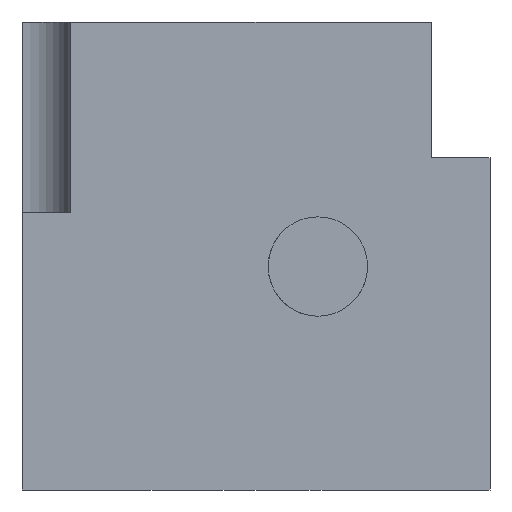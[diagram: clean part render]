
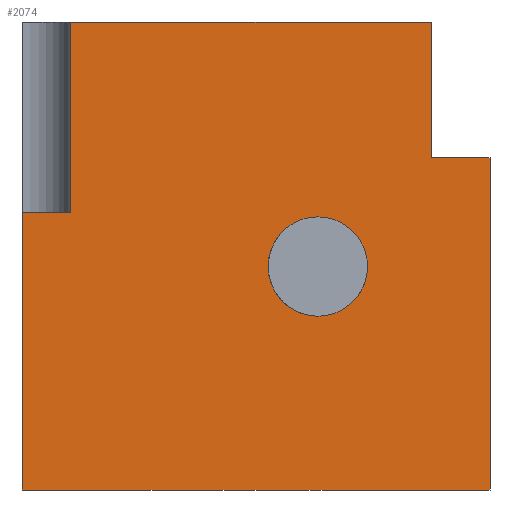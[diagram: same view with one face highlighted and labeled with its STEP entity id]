
A CAD part, front view. The second image highlights one B-rep face of the part: STEP entity #2074.
In plain terms, the highlighted planar face has unit normal (0, -1, 0).
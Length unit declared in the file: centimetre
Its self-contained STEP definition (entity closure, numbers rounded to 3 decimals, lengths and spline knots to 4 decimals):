
#6 = ORIENTED_EDGE ( 'NONE', *, *, #1111, .F. ) ;
#37 = ORIENTED_EDGE ( 'NONE', *, *, #1670, .F. ) ;
#57 = EDGE_CURVE ( 'NONE', #1384, #374, #211, .T. ) ;
#70 = EDGE_CURVE ( 'NONE', #266, #604, #356, .T. ) ;
#79 = FACE_OUTER_BOUND ( 'NONE', #1983, .T. ) ;
#91 = AXIS2_PLACEMENT_3D ( 'NONE', #1476, #615, #410 ) ;
#92 = CARTESIAN_POINT ( 'NONE',  ( 0., 0., 1000. ) ) ;
#103 = EDGE_CURVE ( 'NONE', #290, #1273, #567, .T. ) ;
#134 = CARTESIAN_POINT ( 'NONE',  ( 874.7056, 0., 709.4959 ) ) ;
#185 = CARTESIAN_POINT ( 'NONE',  ( 0., 0., 1000. ) ) ;
#205 = CIRCLE ( 'NONE', #823, 106.1755 ) ;
#211 = LINE ( 'NONE', #1591, #706 ) ;
#230 = ORIENTED_EDGE ( 'NONE', *, *, #686, .F. ) ;
#239 = LINE ( 'NONE', #2176, #1822 ) ;
#266 = VERTEX_POINT ( 'NONE', #710 ) ;
#290 = VERTEX_POINT ( 'NONE', #1290 ) ;
#319 = CARTESIAN_POINT ( 'NONE',  ( 0., 0., 0. ) ) ;
#332 = EDGE_CURVE ( 'NONE', #976, #1384, #791, .T. ) ;
#356 = LINE ( 'NONE', #1733, #1929 ) ;
#374 = VERTEX_POINT ( 'NONE', #1643 ) ;
#404 = DIRECTION ( 'NONE',  ( 1., 0., 0. ) ) ;
#410 = DIRECTION ( 'NONE',  ( 0., 0., -1. ) ) ;
#424 = ORIENTED_EDGE ( 'NONE', *, *, #57, .F. ) ;
#478 = LINE ( 'NONE', #319, #1936 ) ;
#538 = DIRECTION ( 'NONE',  ( 0., 0., 1. ) ) ;
#558 = VECTOR ( 'NONE', #1797, 100. ) ;
#564 = ORIENTED_EDGE ( 'NONE', *, *, #70, .T. ) ;
#567 = LINE ( 'NONE', #914, #558 ) ;
#574 = CARTESIAN_POINT ( 'NONE',  ( 0., 0., 593.3144 ) ) ;
#604 = VERTEX_POINT ( 'NONE', #879 ) ;
#615 = DIRECTION ( 'NONE',  ( 0., -1., 0. ) ) ;
#629 = CARTESIAN_POINT ( 'NONE',  ( 1000., 0., 709.4959 ) ) ;
#646 = CARTESIAN_POINT ( 'NONE',  ( 874.7056, 0., 709.4959 ) ) ;
#677 = DIRECTION ( 'NONE',  ( 0., 0., -1. ) ) ;
#686 = EDGE_CURVE ( 'NONE', #1483, #1974, #205, .T. ) ;
#706 = VECTOR ( 'NONE', #871, 100. ) ;
#710 = CARTESIAN_POINT ( 'NONE',  ( 0., 0., 593.3144 ) ) ;
#726 = LINE ( 'NONE', #574, #931 ) ;
#761 = DIRECTION ( 'NONE',  ( 0., 1., 0. ) ) ;
#791 = LINE ( 'NONE', #134, #2184 ) ;
#823 = AXIS2_PLACEMENT_3D ( 'NONE', #1201, #1885, #677 ) ;
#830 = CARTESIAN_POINT ( 'NONE',  ( 632.2274, 0., 371.3824 ) ) ;
#862 = CARTESIAN_POINT ( 'NONE',  ( 632.2274, 0., 583.7335 ) ) ;
#871 = DIRECTION ( 'NONE',  ( 0., 0., -1. ) ) ;
#879 = CARTESIAN_POINT ( 'NONE',  ( 0., 0., 0. ) ) ;
#914 = CARTESIAN_POINT ( 'NONE',  ( 103.8828, 0., 593.3144 ) ) ;
#927 = CIRCLE ( 'NONE', #91, 106.1755 ) ;
#931 = VECTOR ( 'NONE', #404, 100. ) ;
#956 = DIRECTION ( 'NONE',  ( 0., 0., 1. ) ) ;
#958 = EDGE_LOOP ( 'NONE', ( #230, #37 ) ) ;
#976 = VERTEX_POINT ( 'NONE', #646 ) ;
#977 = EDGE_CURVE ( 'NONE', #604, #374, #478, .T. ) ;
#995 = DIRECTION ( 'NONE',  ( 1., 0., 0. ) ) ;
#1011 = VERTEX_POINT ( 'NONE', #1352 ) ;
#1057 = EDGE_CURVE ( 'NONE', #290, #1011, #1707, .T. ) ;
#1090 = DIRECTION ( 'NONE',  ( 1., 0., 0. ) ) ;
#1106 = ORIENTED_EDGE ( 'NONE', *, *, #103, .T. ) ;
#1111 = EDGE_CURVE ( 'NONE', #266, #1273, #726, .T. ) ;
#1180 = DIRECTION ( 'NONE',  ( 1., 0., 0. ) ) ;
#1201 = CARTESIAN_POINT ( 'NONE',  ( 632.2274, 0., 477.5579 ) ) ;
#1257 = AXIS2_PLACEMENT_3D ( 'NONE', #92, #761, #538 ) ;
#1273 = VERTEX_POINT ( 'NONE', #1284 ) ;
#1277 = EDGE_CURVE ( 'NONE', #976, #1011, #239, .T. ) ;
#1284 = CARTESIAN_POINT ( 'NONE',  ( 103.8828, 0., 593.3144 ) ) ;
#1290 = CARTESIAN_POINT ( 'NONE',  ( 103.8828, 0., 1000. ) ) ;
#1300 = ORIENTED_EDGE ( 'NONE', *, *, #977, .T. ) ;
#1337 = ORIENTED_EDGE ( 'NONE', *, *, #332, .F. ) ;
#1352 = CARTESIAN_POINT ( 'NONE',  ( 874.7056, 0., 1000. ) ) ;
#1384 = VERTEX_POINT ( 'NONE', #629 ) ;
#1448 = ORIENTED_EDGE ( 'NONE', *, *, #1057, .F. ) ;
#1476 = CARTESIAN_POINT ( 'NONE',  ( 632.2274, 0., 477.5579 ) ) ;
#1483 = VERTEX_POINT ( 'NONE', #830 ) ;
#1591 = CARTESIAN_POINT ( 'NONE',  ( 1000., 0., 1000. ) ) ;
#1614 = PLANE ( 'NONE',  #1257 ) ;
#1643 = CARTESIAN_POINT ( 'NONE',  ( 1000., 0., 0. ) ) ;
#1670 = EDGE_CURVE ( 'NONE', #1974, #1483, #927, .T. ) ;
#1707 = LINE ( 'NONE', #185, #2083 ) ;
#1724 = DIRECTION ( 'NONE',  ( 0., 0., -1. ) ) ;
#1731 = ORIENTED_EDGE ( 'NONE', *, *, #1277, .T. ) ;
#1733 = CARTESIAN_POINT ( 'NONE',  ( 0., 0., 1000. ) ) ;
#1797 = DIRECTION ( 'NONE',  ( 0., 0., -1. ) ) ;
#1822 = VECTOR ( 'NONE', #956, 100. ) ;
#1885 = DIRECTION ( 'NONE',  ( 0., -1., 0. ) ) ;
#1929 = VECTOR ( 'NONE', #1724, 100. ) ;
#1936 = VECTOR ( 'NONE', #1180, 100. ) ;
#1974 = VERTEX_POINT ( 'NONE', #862 ) ;
#1983 = EDGE_LOOP ( 'NONE', ( #1337, #1731, #1448, #1106, #6, #564, #1300, #424 ) ) ;
#2074 = ADVANCED_FACE ( 'NONE', ( #2131, #79 ), #1614, .F. ) ;
#2083 = VECTOR ( 'NONE', #1090, 100. ) ;
#2131 = FACE_BOUND ( 'NONE', #958, .T. ) ;
#2176 = CARTESIAN_POINT ( 'NONE',  ( 874.7056, 0., 709.4959 ) ) ;
#2184 = VECTOR ( 'NONE', #995, 100. ) ;
